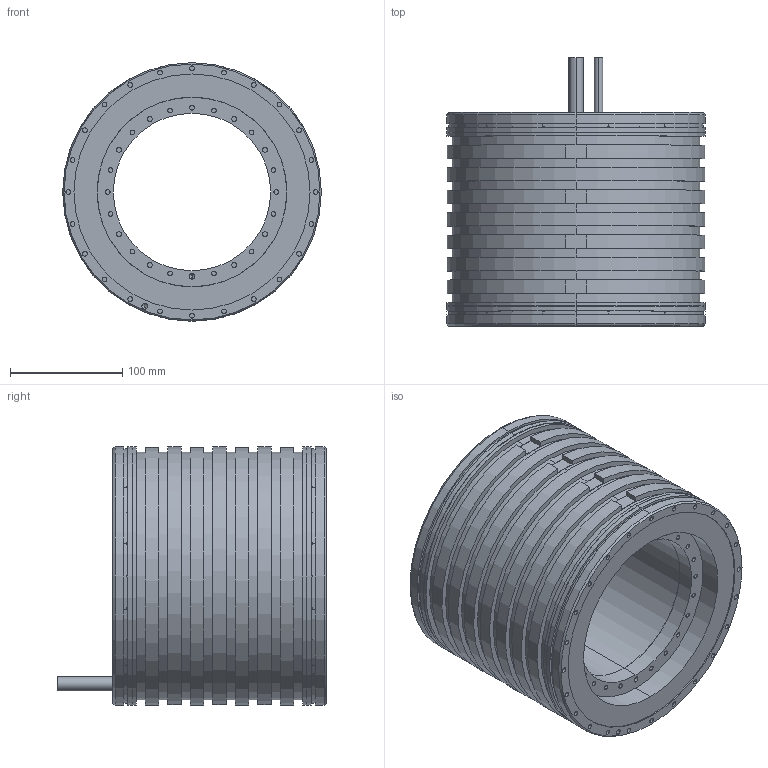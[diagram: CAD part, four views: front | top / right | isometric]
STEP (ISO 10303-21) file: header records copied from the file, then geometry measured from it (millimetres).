
FILE_DESCRIPTION (( 'STEP AP203' ), '1' );
FILE_NAME ('TM-2-4F.STEP', '2020-10-20T05:46:16', ( '' ), ( '' ), 'SwSTEP 2.0', 'SolidWorks 2015', '' );
FILE_SCHEMA (( 'CONFIG_CONTROL_DESIGN' ));
Length unit declared in the file: millimetre
Products named in the file (3): TM-2-4X_rotor_TM-2-4F_rotor; TM-2-4X_stator_TM-2-4F_stator; TM-2-4F
Assembly tree (2 placements, depth 2):
  TM-2-4F
    TM-2-4X_stator_TM-2-4F_stator
    TM-2-4X_rotor_TM-2-4F_rotor
Bounding box: 230 x 239 x 230 mm (x, y, z)
Volume: 4369485.2 mm3; surface area: 512639.2 mm2
Topology: 2 solids, 2 shells, 418 faces, 876 edges, 564 vertices
Faces by surface type: cylinder 257, plane 145, cone 16
Entity records: 11611 total; most frequent: DIRECTION 2232, CARTESIAN_POINT 1855, ORIENTED_EDGE 1736, AXIS2_PLACEMENT_3D 941, EDGE_CURVE 868, VERTEX_POINT 564, EDGE_LOOP 532, CIRCLE 518
